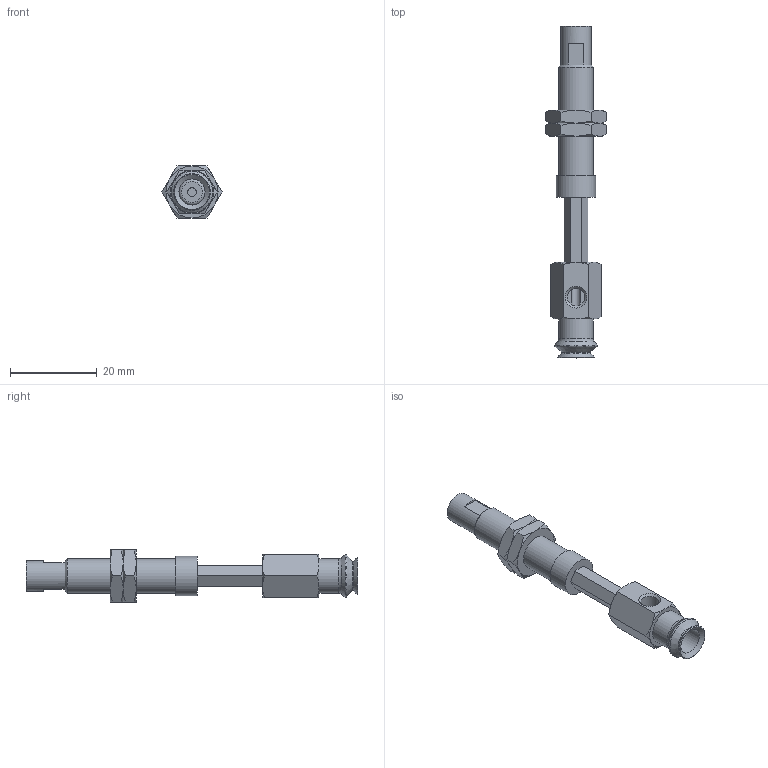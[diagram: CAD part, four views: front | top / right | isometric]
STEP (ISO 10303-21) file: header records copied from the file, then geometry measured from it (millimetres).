
FILE_DESCRIPTION(('STEP AP203'),'1');
FILE_NAME('.stp','2025-04-24T05:57:39',(' '),(' '),'Spatial InterOp 3D',' ',' ');
FILE_SCHEMA(('CONFIG_CONTROL_DESIGN'));
Length unit declared in the file: millimetre
Products named in the file (6): BNABPJYH-8-15-※; CONNECTOR_H-8-15; NAPJH-8-15-NUT; NAPJTH-8-15-FBODY; NAPJTH-8-15-MBODY; BPJG-8-※
Assembly tree (6 placements, depth 2):
  BNABPJYH-8-15-※
    CONNECTOR_H-8-15
    NAPJH-8-15-NUT  x2
    NAPJTH-8-15-FBODY
    NAPJTH-8-15-MBODY
    BPJG-8-※
Bounding box: 13.86 x 76.5 x 12 mm (x, y, z)
Volume: 3889.8 mm3; surface area: 4836.1 mm2
Topology: 6 solids, 6 shells, 136 faces, 296 edges, 179 vertices
Faces by surface type: plane 61, cone 52, cylinder 14, torus 9
Full cylindrical faces by diameter (mm): 2 x1, 4 x2, 4.134 x2, 5 x1, 6 x2, 7 x1, 7.188 x2, 8 x2, 9 x1
Entity records: 3384 total; most frequent: CARTESIAN_POINT 818, DIRECTION 468, ORIENTED_EDGE 412, EDGE_CURVE 206, AXIS2_PLACEMENT_3D 196, EDGE_LOOP 164, VERTEX_POINT 144, FACE_OUTER_BOUND 135
